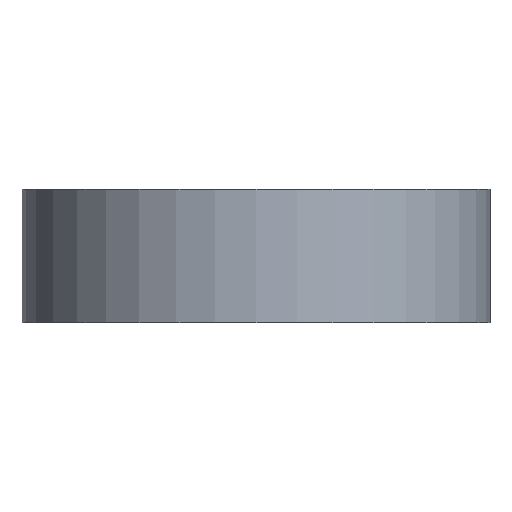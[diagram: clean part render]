
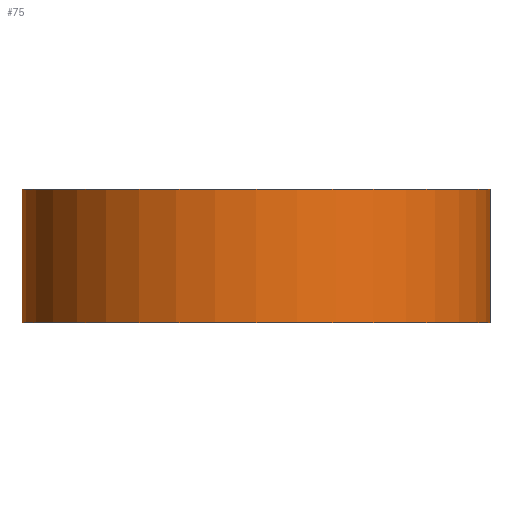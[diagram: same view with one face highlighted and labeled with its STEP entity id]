
A CAD part, front view. The second image highlights one B-rep face of the part: STEP entity #75.
In plain terms, the highlighted cylindrical face has radius 14 mm (diameter 28 mm), a full revolution.
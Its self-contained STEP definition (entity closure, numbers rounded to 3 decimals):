
#75 = ADVANCED_FACE('',(#76),#90,.T.);
#76 = FACE_BOUND('',#77,.F.);
#77 = EDGE_LOOP('',(#78,#108,#135,#136));
#78 = ORIENTED_EDGE('',*,*,#79,.T.);
#79 = EDGE_CURVE('',#80,#82,#84,.T.);
#80 = VERTEX_POINT('',#81);
#81 = CARTESIAN_POINT('',(14.,0.,45.));
#82 = VERTEX_POINT('',#83);
#83 = CARTESIAN_POINT('',(14.,0.,53.));
#84 = SEAM_CURVE('',#85,(#89,#101),.PCURVE_S1.);
#85 = LINE('',#86,#87);
#86 = CARTESIAN_POINT('',(14.,0.,45.));
#87 = VECTOR('',#88,1.);
#88 = DIRECTION('',(0.,0.,1.));
#89 = PCURVE('',#90,#95);
#90 = CYLINDRICAL_SURFACE('',#91,14.);
#91 = AXIS2_PLACEMENT_3D('',#92,#93,#94);
#92 = CARTESIAN_POINT('',(0.,0.,45.));
#93 = DIRECTION('',(-0.,-0.,-1.));
#94 = DIRECTION('',(1.,0.,0.));
#95 = DEFINITIONAL_REPRESENTATION('',(#96),#100);
#96 = LINE('',#97,#98);
#97 = CARTESIAN_POINT('',(-0.,0.));
#98 = VECTOR('',#99,1.);
#99 = DIRECTION('',(-0.,-1.));
#100 = ( GEOMETRIC_REPRESENTATION_CONTEXT(2) 
PARAMETRIC_REPRESENTATION_CONTEXT() REPRESENTATION_CONTEXT('2D SPACE',''
  ) );
#101 = PCURVE('',#90,#102);
#102 = DEFINITIONAL_REPRESENTATION('',(#103),#107);
#103 = LINE('',#104,#105);
#104 = CARTESIAN_POINT('',(-6.283,0.));
#105 = VECTOR('',#106,1.);
#106 = DIRECTION('',(-0.,-1.));
#107 = ( GEOMETRIC_REPRESENTATION_CONTEXT(2) 
PARAMETRIC_REPRESENTATION_CONTEXT() REPRESENTATION_CONTEXT('2D SPACE',''
  ) );
#108 = ORIENTED_EDGE('',*,*,#109,.T.);
#109 = EDGE_CURVE('',#82,#82,#110,.T.);
#110 = SURFACE_CURVE('',#111,(#116,#123),.PCURVE_S1.);
#111 = CIRCLE('',#112,14.);
#112 = AXIS2_PLACEMENT_3D('',#113,#114,#115);
#113 = CARTESIAN_POINT('',(0.,0.,53.));
#114 = DIRECTION('',(0.,0.,1.));
#115 = DIRECTION('',(1.,0.,0.));
#116 = PCURVE('',#90,#117);
#117 = DEFINITIONAL_REPRESENTATION('',(#118),#122);
#118 = LINE('',#119,#120);
#119 = CARTESIAN_POINT('',(-0.,-8.));
#120 = VECTOR('',#121,1.);
#121 = DIRECTION('',(-1.,0.));
#122 = ( GEOMETRIC_REPRESENTATION_CONTEXT(2) 
PARAMETRIC_REPRESENTATION_CONTEXT() REPRESENTATION_CONTEXT('2D SPACE',''
  ) );
#123 = PCURVE('',#124,#129);
#124 = PLANE('',#125);
#125 = AXIS2_PLACEMENT_3D('',#126,#127,#128);
#126 = CARTESIAN_POINT('',(0.,0.,53.)
  );
#127 = DIRECTION('',(0.,0.,1.));
#128 = DIRECTION('',(1.,0.,-0.));
#129 = DEFINITIONAL_REPRESENTATION('',(#130),#134);
#130 = CIRCLE('',#131,14.);
#131 = AXIS2_PLACEMENT_2D('',#132,#133);
#132 = CARTESIAN_POINT('',(0.,0.));
#133 = DIRECTION('',(1.,0.));
#134 = ( GEOMETRIC_REPRESENTATION_CONTEXT(2) 
PARAMETRIC_REPRESENTATION_CONTEXT() REPRESENTATION_CONTEXT('2D SPACE',''
  ) );
#135 = ORIENTED_EDGE('',*,*,#79,.F.);
#136 = ORIENTED_EDGE('',*,*,#137,.F.);
#137 = EDGE_CURVE('',#80,#80,#138,.T.);
#138 = SURFACE_CURVE('',#139,(#144,#151),.PCURVE_S1.);
#139 = CIRCLE('',#140,14.);
#140 = AXIS2_PLACEMENT_3D('',#141,#142,#143);
#141 = CARTESIAN_POINT('',(0.,0.,45.));
#142 = DIRECTION('',(0.,0.,1.));
#143 = DIRECTION('',(1.,0.,0.));
#144 = PCURVE('',#90,#145);
#145 = DEFINITIONAL_REPRESENTATION('',(#146),#150);
#146 = LINE('',#147,#148);
#147 = CARTESIAN_POINT('',(-0.,0.));
#148 = VECTOR('',#149,1.);
#149 = DIRECTION('',(-1.,0.));
#150 = ( GEOMETRIC_REPRESENTATION_CONTEXT(2) 
PARAMETRIC_REPRESENTATION_CONTEXT() REPRESENTATION_CONTEXT('2D SPACE',''
  ) );
#151 = PCURVE('',#152,#157);
#152 = PLANE('',#153);
#153 = AXIS2_PLACEMENT_3D('',#154,#155,#156);
#154 = CARTESIAN_POINT('',(0.,0.,45.)
  );
#155 = DIRECTION('',(0.,0.,1.));
#156 = DIRECTION('',(1.,0.,-0.));
#157 = DEFINITIONAL_REPRESENTATION('',(#158),#162);
#158 = CIRCLE('',#159,14.);
#159 = AXIS2_PLACEMENT_2D('',#160,#161);
#160 = CARTESIAN_POINT('',(0.,0.));
#161 = DIRECTION('',(1.,0.));
#162 = ( GEOMETRIC_REPRESENTATION_CONTEXT(2) 
PARAMETRIC_REPRESENTATION_CONTEXT() REPRESENTATION_CONTEXT('2D SPACE',''
  ) );
